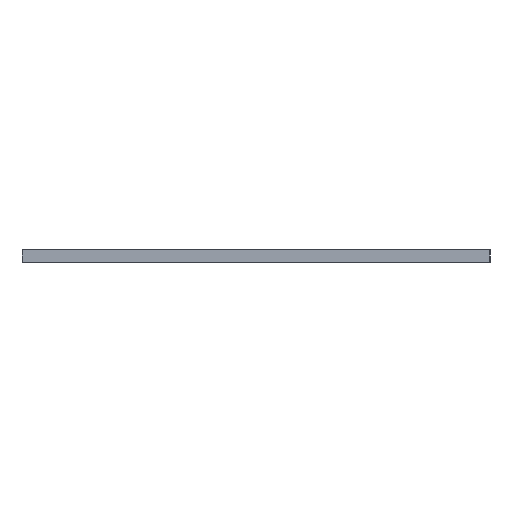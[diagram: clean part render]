
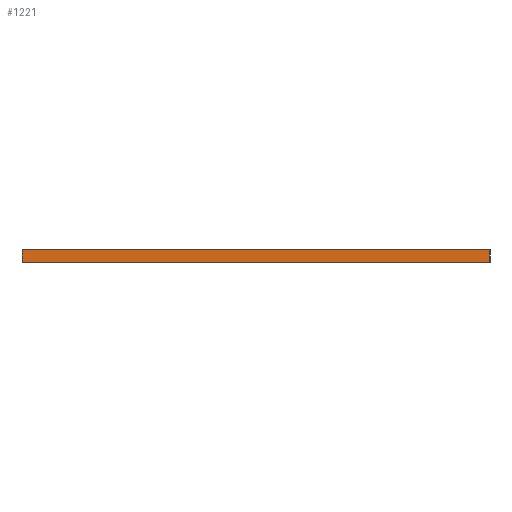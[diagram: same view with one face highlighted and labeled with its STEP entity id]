
A CAD part, left-side view. The second image highlights one B-rep face of the part: STEP entity #1221.
In plain terms, the highlighted planar face has unit normal (-1, 0, 0).
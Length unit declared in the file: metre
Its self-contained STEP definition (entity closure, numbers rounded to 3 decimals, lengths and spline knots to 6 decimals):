
#197=ORIENTED_EDGE('',*,*,#451,.T.);
#198=ORIENTED_EDGE('',*,*,#456,.T.);
#199=ORIENTED_EDGE('',*,*,#457,.F.);
#200=ORIENTED_EDGE('',*,*,#458,.F.);
#451=EDGE_CURVE('',#582,#581,#707,.F.);
#456=EDGE_CURVE('',#581,#585,#712,.T.);
#457=EDGE_CURVE('',#586,#585,#713,.F.);
#458=EDGE_CURVE('',#582,#586,#714,.T.);
#581=VERTEX_POINT('',#1858);
#582=VERTEX_POINT('',#1860);
#585=VERTEX_POINT('',#1870);
#586=VERTEX_POINT('',#1872);
#707=LINE('',#1859,#719);
#712=LINE('',#1869,#724);
#713=LINE('',#1871,#725);
#714=LINE('',#1873,#726);
#719=VECTOR('',#1478,1.);
#724=VECTOR('',#1487,1.);
#725=VECTOR('',#1488,1.);
#726=VECTOR('',#1489,1.);
#731=EDGE_LOOP('',(#197,#198,#199,#200));
#973=FACE_BOUND('',#731,.T.);
#1215=PLANE('',#1291);
#1221=ADVANCED_FACE('',(#973),#1215,.T.);
#1291=AXIS2_PLACEMENT_3D('',#1868,#1485,#1486);
#1478=DIRECTION('',(0.,0.,-1.));
#1485=DIRECTION('',(-1.,0.,0.));
#1486=DIRECTION('',(0.,1.,0.));
#1487=DIRECTION('',(0.,1.,0.));
#1488=DIRECTION('',(0.,0.,-1.));
#1489=DIRECTION('',(0.,1.,0.));
#1858=CARTESIAN_POINT('',(-0.040498,-0.028494,0.00151));
#1859=CARTESIAN_POINT('',(-0.040498,-0.028494,0.));
#1860=CARTESIAN_POINT('',(-0.040498,-0.028494,0.));
#1868=CARTESIAN_POINT('',(-0.040498,-0.028494,0.));
#1869=CARTESIAN_POINT('',(-0.040498,-0.028494,0.00151));
#1870=CARTESIAN_POINT('',(-0.040498,0.028506,0.00151));
#1871=CARTESIAN_POINT('',(-0.040498,0.028506,0.));
#1872=CARTESIAN_POINT('',(-0.040498,0.028506,0.));
#1873=CARTESIAN_POINT('',(-0.040498,0.068006,0.));
